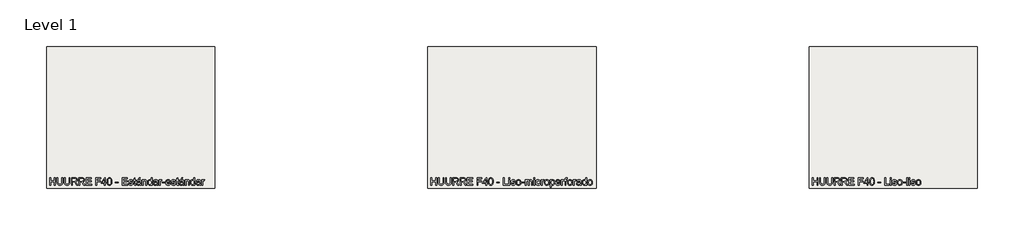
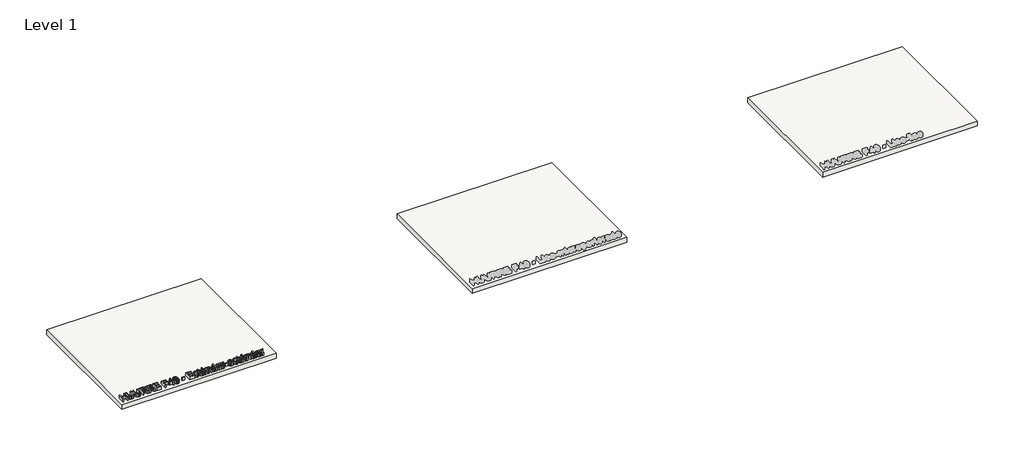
# One storey, part 1 of 2: 3 slabs, 1 proxy.
"""IFC4 building model written with IfcOpenShell, lengths in millimetres."""

from ifc_helpers import new_model, si_unit, frame, origin, origin_with_axes, place, context, project, spatial, polyline, outline, extrude, element, save

model = new_model("IFC4")

# Units and contexts
model_context = context("Model", 3, world=origin())
ifc_project = project(units=[si_unit("LENGTHUNIT", "METRE", prefix="MILLI")], contexts=[model_context])

# Site, building, storey
site = spatial("IfcSite", under=ifc_project)
building = spatial("IfcBuilding", under=site)
storey = spatial("IfcBuildingStorey", under=building, Name="Level 1", Elevation=0.0)

# Proxy
placement = place(None, origin())
element("IfcBuildingElementProxy", 1, Name="200mm Arial", ObjectType="200mm Arial", at=placement, inside=storey, context=model_context, shape_type="SweptSolid", body=[
    extrude(outline(polyline([(-8319.1902574, 798.4307978), (-8319.1902574, 999.3434181), (-8294.0761799, 999.3434181), (-8294.0761799, 917.7226661), (-8187.3413503, 917.7226661), (-8187.3413503, 999.3434181), (-8162.2272728, 999.3434181), (-8162.2272728, 798.4307978), (-8187.3413503, 798.4307978), (-8187.3413503, 892.6085886), (-8294.0761799, 892.6085886), (-8294.0761799, 798.4307978), (-8319.1902574, 798.4307978)])), origin_with_axes(), (0.0, 0.0, 1.0), 100.0),
    extrude(outline(polyline([(-7986.42873, 999.3434181), (-7961.3146525, 999.3434181), (-7961.3146525, 883.4360642), (-7963.0191724, 856.2925043), (-7968.1327321, 835.3906756), (-7977.6854013, 819.2651815), (-7992.7072494, 806.4506253), (-8013.2350647, 798.0813099), (-8039.3056355, 795.2915381), (-8064.8059891, 797.7195593), (-8085.192783, 805.0036228), (-8100.4721485, 816.8923426), (-8110.6502171, 833.1343327), (-8116.3707821, 854.9190782), (-8118.2776371, 883.4360642), (-8118.2776371, 999.3434181), (-8093.1635596, 999.3434181), (-8093.1635596, 884.318981), (-8091.9250235, 861.7494205), (-8088.2094154, 846.034728), (-8081.4771748, 835.1515523), (-8071.1887417, 827.0765425), (-8057.7733116, 822.0733474), (-8041.6600802, 820.4056157), (-8016.116807, 823.7042909), (-7999.1329216, 833.6003165), (-7989.6047779, 852.8773331), (-7986.42873, 884.318981), (-7986.42873, 999.3434181)])), origin_with_axes(), (0.0, 0.0, 1.0), 100.0),
    extrude(outline(polyline([(-7785.5161097, 999.3434181), (-7760.4020322, 999.3434181), (-7760.4020322, 883.4360642), (-7762.1065521, 856.2925043), (-7767.2201118, 835.3906756), (-7776.772781, 819.2651815), (-7791.7946291, 806.4506253), (-7812.3224444, 798.0813099), (-7838.3930152, 795.2915381), (-7863.8933688, 797.7195593), (-7884.2801627, 805.0036228), (-7899.5595282, 816.8923426), (-7909.7375968, 833.1343327), (-7915.4581618, 854.9190782), (-7917.3650168, 883.4360642), (-7917.3650168, 999.3434181), (-7892.2509393, 999.3434181), (-7892.2509393, 884.318981), (-7891.0124032, 861.7494205), (-7887.2967951, 846.034728), (-7880.5645545, 835.1515523), (-7870.2761214, 827.0765425), (-7856.8606913, 822.0733474), (-7840.7474599, 820.4056157), (-7815.2041867, 823.7042909), (-7798.2203013, 833.6003165), (-7788.6921576, 852.8773331), (-7785.5161097, 884.318981), (-7785.5161097, 999.3434181)])), origin_with_axes(), (0.0, 0.0, 1.0), 100.0),
    extrude(outline(polyline([(-7716.4523965, 798.4307978), (-7716.4523965, 999.3434181), (-7629.8775003, 999.3434181), (-7606.6089641, 997.9883861), (-7589.680261, 993.92329), (-7577.3071632, 986.4184973), (-7567.7054431, 974.7443754), (-7561.5434197, 960.2682189), (-7559.4894119, 944.3573226), (-7562.8923203, 924.5652712), (-7573.1010457, 908.1577342), (-7590.4221563, 896.127993), (-7615.1622205, 889.4693289), (-7600.8883991, 878.7271746), (-7580.532262, 852.8773331), (-7547.030475, 798.4307978), (-7576.2157799, 798.4307978), (-7602.3599271, 840.0750397), (-7621.2445361, 867.6416638), (-7634.5128134, 880.6646865), (-7646.4567156, 885.4471524), (-7661.0248426, 886.3300692), (-7691.338319, 886.3300692), (-7691.338319, 798.4307978), (-7716.4523965, 798.4307978)]), holes=[polyline([(-7691.338319, 911.4441467), (-7635.1259501, 911.4441467), (-7606.4556799, 915.0003393), (-7597.0256381, 919.6233898), (-7590.1707703, 926.3801557), (-7584.6034894, 943.4253548), (-7587.2583712, 955.6758253), (-7595.2230164, 965.5473255), (-7608.9266207, 972.0588368), (-7628.7983798, 974.2293406), (-7691.338319, 974.2293406), (-7691.338319, 911.4441467)])]), origin_with_axes(), (0.0, 0.0, 1.0), 100.0),
    extrude(outline(polyline([(-7515.5397762, 798.4307978), (-7515.5397762, 999.3434181), (-7428.96488, 999.3434181), (-7405.6963438, 997.9883861), (-7388.7676407, 993.92329), (-7376.3945429, 986.4184973), (-7366.7928228, 974.7443754), (-7360.6307994, 960.2682189), (-7358.5767916, 944.3573226), (-7361.9797, 924.5652712), (-7372.1884254, 908.1577342), (-7389.509536, 896.127993), (-7414.2496002, 889.4693289), (-7399.9757788, 878.7271746), (-7379.6196417, 852.8773331), (-7346.1178547, 798.4307978), (-7375.3031596, 798.4307978), (-7401.4473068, 840.0750397), (-7420.3319158, 867.6416638), (-7433.6001931, 880.6646865), (-7445.5440953, 885.4471524), (-7460.1122223, 886.3300692), (-7490.4256987, 886.3300692), (-7490.4256987, 798.4307978), (-7515.5397762, 798.4307978)]), holes=[polyline([(-7490.4256987, 911.4441467), (-7434.2133298, 911.4441467), (-7405.5430596, 915.0003393), (-7396.1130178, 919.6233898), (-7389.25815, 926.3801557), (-7383.6908691, 943.4253548), (-7386.3457509, 955.6758253), (-7394.3103961, 965.5473255), (-7408.0140004, 972.0588368), (-7427.8857595, 974.2293406), (-7490.4256987, 974.2293406), (-7490.4256987, 911.4441467)])]), origin_with_axes(), (0.0, 0.0, 1.0), 100.0),
    extrude(outline(polyline([(-7314.6271559, 798.4307978), (-7314.6271559, 999.3434181), (-7170.2212101, 999.3434181), (-7170.2212101, 974.2293406), (-7289.5130784, 974.2293406), (-7289.5130784, 914.5834064), (-7176.4997294, 914.5834064), (-7176.4997294, 889.4693289), (-7289.5130784, 889.4693289), (-7289.5130784, 823.5448753), (-7167.0819504, 823.5448753), (-7167.0819504, 798.4307978), (-7314.6271559, 798.4307978)])), origin_with_axes(), (0.0, 0.0, 1.0), 100.0),
    extrude(outline(polyline([(-7050.9293418, 798.4307978), (-7050.9293418, 999.3434181), (-6915.941175, 999.3434181), (-6915.941175, 974.2293406), (-7025.8152642, 974.2293406), (-7025.8152642, 914.5834064), (-6931.6374735, 914.5834064), (-6931.6374735, 889.4693289), (-7025.8152642, 889.4693289), (-7025.8152642, 798.4307978), (-7050.9293418, 798.4307978)])), origin_with_axes(), (0.0, 0.0, 1.0), 100.0),
    extrude(outline(polyline([(-6809.2063455, 798.4307978), (-6809.2063455, 845.5196932), (-6900.2448765, 845.5196932), (-6900.2448765, 870.6337707), (-6802.9278261, 996.2041584), (-6784.0922679, 996.2041584), (-6784.0922679, 870.6337707), (-6758.9781904, 870.6337707), (-6758.9781904, 845.5196932), (-6784.0922679, 845.5196932), (-6784.0922679, 798.4307978), (-6809.2063455, 798.4307978)]), holes=[polyline([(-6809.2063455, 870.6337707), (-6809.2063455, 948.2323462), (-6869.3427889, 870.6337707), (-6809.2063455, 870.6337707)])]), origin_with_axes(), (0.0, 0.0, 1.0), 100.0),
    extrude(outline(polyline([(-6737.0033725, 897.2684272), (-6735.1578312, 929.4274449), (-6729.6212072, 955.0749514), (-6720.4486828, 974.6033539), (-6707.6954403, 988.4050601), (-6691.2695092, 996.6088286), (-6671.078919, 999.3434181), (-6655.6033497, 997.7247373), (-6641.7464613, 992.868695), (-6630.1581784, 984.9653635), (-6621.4884261, 974.2048151), (-6609.7162022, 944.4799499), (-6605.1544655, 897.2684272), (-6606.9816127, 865.2933504), (-6612.4630544, 839.7071577), (-6621.5803966, 820.160361), (-6634.315245, 806.3034725), (-6650.7779642, 798.0445217), (-6671.078919, 795.2915381), (-6697.1740152, 800.0740041), (-6716.990592, 814.4214019), (-6725.7461835, 829.5505489), (-6732.0001774, 848.4014355), (-6737.0033725, 897.2684272)]), holes=[polyline([(-6711.889295, 897.3174781), (-6708.946239, 857.8130832), (-6700.1170712, 834.9492172), (-6686.9714212, 824.041516), (-6671.078919, 820.4056157), (-6655.1864168, 824.0537788), (-6642.0407669, 834.9982681), (-6633.211599, 857.8743969), (-6630.268543, 897.3174781), (-6633.1134971, 935.9328249), (-6641.6483594, 958.9745005), (-6654.7694839, 970.4156306), (-6671.3732246, 974.2293406), (-6687.0940485, 970.8693517), (-6699.7246637, 960.789385), (-6708.8481372, 936.3129696), (-6711.889295, 897.3174781)])]), origin_with_axes(), (0.0, 0.0, 1.0), 100.0),
    extrude(outline(polyline([(-6510.9766747, 858.076732), (-6510.9766747, 883.1908095), (-6432.4951824, 883.1908095), (-6432.4951824, 858.076732), (-6510.9766747, 858.076732)])), origin_with_axes(), (0.0, 0.0, 1.0), 100.0),
    extrude(outline(polyline([(-6322.6210932, 798.4307978), (-6322.6210932, 999.3434181), (-6178.2151473, 999.3434181), (-6178.2151473, 974.2293406), (-6297.5070156, 974.2293406), (-6297.5070156, 914.5834064), (-6184.4936667, 914.5834064), (-6184.4936667, 889.4693289), (-6297.5070156, 889.4693289), (-6297.5070156, 823.5448753), (-6175.0758876, 823.5448753), (-6175.0758876, 798.4307978), (-6322.6210932, 798.4307978)])), origin_with_axes(), (0.0, 0.0, 1.0), 100.0),
    extrude(outline(polyline([(-6149.9618101, 842.3804335), (-6124.8477326, 845.5196932), (-6120.8868698, 834.7775389), (-6113.2226615, 826.8803388), (-6101.8060569, 822.0242964), (-6086.5880051, 820.4056157), (-6071.5538942, 821.8894064), (-6060.9834182, 826.3407785), (-6054.7294243, 832.7909762), (-6052.6447596, 840.2712434), (-6054.741687, 846.6723901), (-6061.0324691, 851.5529579), (-6086.8823107, 858.7143941), (-6124.7005798, 871.0016527), (-6134.271643, 877.1759389), (-6141.2062186, 885.3490505), (-6146.8225504, 905.6070857), (-6142.3098646, 924.3200166), (-6129.9980805, 938.6183634), (-6114.0320019, 946.0495797), (-6092.4250661, 949.115263), (-6061.866335, 944.1856443), (-6050.4374677, 938.3853715), (-6042.4421656, 930.8437906), (-6033.8092015, 908.304887), (-6058.923279, 905.1656273), (-6062.0931956, 913.0689589), (-6068.3655836, 919.0225158), (-6090.4630288, 924.0011855), (-6104.884003, 922.8117004), (-6114.4979858, 919.243245), (-6119.9058511, 914.0928971), (-6121.7084729, 908.1577342), (-6118.716366, 900.8491453), (-6109.3476378, 895.3063899), (-6087.7161765, 889.9598382), (-6050.8544006, 878.1385634), (-6033.7356251, 864.7476588), (-6029.0819179, 854.9006841), (-6027.5306821, 842.9199938), (-6029.351698, 830.5346333), (-6034.8147456, 818.8850367), (-6043.7113585, 808.8847778), (-6055.8330703, 801.4474302), (-6070.4747737, 796.8305111), (-6086.9313616, 795.2915381), (-6112.2539056, 798.2591195), (-6130.7338445, 807.1618638), (-6143.0701541, 821.9016691), (-6149.9618101, 842.3804335)])), origin_with_axes(), (0.0, 0.0, 1.0), 100.0),
    extrude(outline(polyline([(-5945.9099301, 819.3755461), (-5942.7706704, 797.6950338), (-5961.5571776, 795.2915381), (-5982.6000278, 799.4608674), (-5993.0969274, 810.3992254), (-5996.1380852, 838.8978173), (-5996.1380852, 920.8619258), (-6014.9736433, 920.8619258), (-6014.9736433, 945.9760033), (-5996.1380852, 945.9760033), (-5996.1380852, 981.8322351), (-5971.0240077, 996.5965659), (-5971.0240077, 945.9760033), (-5945.9099301, 945.9760033), (-5945.9099301, 920.8619258), (-5971.0240077, 920.8619258), (-5971.0240077, 839.6335813), (-5969.6996325, 826.684135), (-5965.4076759, 822.0978728), (-5956.8482881, 820.4056157), (-5945.9099301, 819.3755461)])), origin_with_axes(), (0.0, 0.0, 1.0), 100.0),
    extrude(outline(polyline([(-5876.8462169, 961.6723018), (-5858.0106587, 999.3434181), (-5826.6180618, 999.3434181), (-5858.0106587, 961.6723018), (-5876.8462169, 961.6723018)])), origin_with_axes(), (0.0, 0.0, 1.0), 100.0),
    extrude(outline(polyline([(-5826.6180618, 817.266356), (-5850.9718499, 800.2456823), (-5877.8762865, 795.2915381), (-5898.8639543, 798.2713823), (-5914.3456549, 807.2109148), (-5923.8921927, 820.7857604), (-5927.074372, 837.671544), (-5922.2673806, 857.5371717), (-5909.6367654, 871.9581459), (-5892.052006, 880.1987026), (-5870.3224428, 883.9756244), (-5826.7652146, 892.6085886), (-5826.6180618, 898.2003949), (-5828.3471072, 909.408533), (-5833.5342433, 916.7416475), (-5845.1347889, 922.186301), (-5861.2970712, 924.0011855), (-5876.2576057, 922.7933063), (-5886.7054544, 919.1696686), (-5893.8301023, 912.4680849), (-5898.8210347, 902.0263677), (-5923.9351123, 905.1656273), (-5913.0703307, 929.6910937), (-5903.8119671, 937.9439131), (-5891.1936147, 944.063017), (-5858.0597097, 949.115263), (-5827.6236059, 944.6516282), (-5810.431254, 933.44349), (-5802.7302576, 916.3982909), (-5801.5039843, 894.4234731), (-5801.5039843, 863.178029), (-5800.22866, 819.5472243), (-5795.2254649, 798.4307978), (-5820.3395424, 798.4307978), (-5826.6180618, 817.266356)]), holes=[polyline([(-5826.6180618, 867.494511), (-5867.1341322, 859.7935146), (-5888.7410681, 855.7222872), (-5898.5267291, 849.1004113), (-5901.9602944, 839.4373775), (-5900.0902276, 831.969373), (-5894.4800272, 825.8502692), (-5885.2523205, 821.766779), (-5872.5297348, 820.4056157), (-5859.0407283, 821.9078005), (-5847.1213517, 826.4143549), (-5830.7383402, 840.9579565), (-5826.7652146, 860.3821258), (-5826.6180618, 867.494511)])]), origin_with_axes(), (0.0, 0.0, 1.0), 100.0),
    extrude(outline(polyline([(-5766.9721277, 798.4307978), (-5766.9721277, 945.9760033), (-5741.8580501, 945.9760033), (-5741.8580501, 925.3746116), (-5733.1331155, 935.7611466), (-5722.65461, 943.1801002), (-5710.4225336, 947.6314723), (-5696.4368865, 949.115263), (-5672.7207605, 944.3327971), (-5656.5339527, 931.7757583), (-5649.0046345, 913.3080822), (-5647.6802594, 889.0278705), (-5647.6802594, 798.4307978), (-5672.7943369, 798.4307978), (-5672.7943369, 885.6433561), (-5675.6883419, 907.8634286), (-5685.9154614, 919.611127), (-5703.1568642, 924.0011855), (-5717.8660127, 921.5363761), (-5730.4046573, 914.141948), (-5738.9947019, 899.8558639), (-5741.8580501, 876.7160864), (-5741.8580501, 798.4307978), (-5766.9721277, 798.4307978)])), origin_with_axes(), (0.0, 0.0, 1.0), 100.0),
    extrude(outline(polyline([(-5522.1098717, 798.4307978), (-5522.1098717, 822.1223983), (-5529.6238614, 810.383897), (-5538.7258751, 801.9992532), (-5549.4159128, 796.9684669), (-5561.6939744, 795.2915381), (-5577.9298331, 797.7195593), (-5592.7922657, 805.0036228), (-5605.3738299, 816.6348252), (-5614.7670835, 832.1042631), (-5620.6164072, 850.7865371), (-5622.5661818, 872.0562478), (-5620.7696914, 893.0623097), (-5615.3802202, 912.0327579), (-5606.4038995, 927.8884719), (-5593.8468607, 939.5503312), (-5578.6594657, 946.7240301), (-5561.7920762, 949.115263), (-5549.5048176, 947.4046118), (-5538.640036, 942.2726579), (-5522.1098717, 924.4916948), (-5522.1098717, 999.3434181), (-5496.9957941, 999.3434181), (-5496.9957941, 798.4307978), (-5522.1098717, 798.4307978)]), holes=[polyline([(-5597.4521043, 872.1543496), (-5594.6194129, 849.4376364), (-5586.1213388, 833.2814855), (-5573.7727665, 823.6245831), (-5559.3885805, 820.4056157), (-5545.0105259, 823.4774303), (-5532.9746533, 832.6928743), (-5524.8260671, 848.2236259), (-5522.1098717, 870.2413633), (-5524.875118, 894.3131085), (-5533.170857, 911.0026883), (-5545.5132979, 920.7515612), (-5560.4186501, 924.0011855), (-5574.9499889, 920.8803199), (-5586.8571028, 911.5177231), (-5594.8033539, 895.4351486), (-5597.4521043, 872.1543496)])]), origin_with_axes(), (0.0, 0.0, 1.0), 100.0),
    extrude(outline(polyline([(-5365.1468871, 817.266356), (-5389.5006751, 800.2456823), (-5416.4051117, 795.2915381), (-5437.3927795, 798.2713823), (-5452.8744802, 807.2109148), (-5462.421018, 820.7857604), (-5465.6031972, 837.671544), (-5460.7962058, 857.5371717), (-5448.1655906, 871.9581459), (-5430.5808313, 880.1987026), (-5408.8512681, 883.9756244), (-5365.2940399, 892.6085886), (-5365.1468871, 898.2003949), (-5366.8759324, 909.408533), (-5372.0630686, 916.7416475), (-5383.6636142, 922.186301), (-5399.8258965, 924.0011855), (-5414.7864309, 922.7933063), (-5425.2342796, 919.1696686), (-5432.3589276, 912.4680849), (-5437.34986, 902.0263677), (-5462.4639375, 905.1656273), (-5451.5991559, 929.6910937), (-5442.3407924, 937.9439131), (-5429.7224399, 944.063017), (-5396.5885349, 949.115263), (-5366.1524312, 944.6516282), (-5348.9600793, 933.44349), (-5341.2590828, 916.3982909), (-5340.0328095, 894.4234731), (-5340.0328095, 863.178029), (-5338.7574853, 819.5472243), (-5333.7542901, 798.4307978), (-5358.8683677, 798.4307978), (-5365.1468871, 817.266356)]), holes=[polyline([(-5365.1468871, 867.494511), (-5405.6629575, 859.7935146), (-5427.2698933, 855.7222872), (-5437.0555544, 849.1004113), (-5440.4891197, 839.4373775), (-5438.6190529, 831.969373), (-5433.0088524, 825.8502692), (-5423.7811457, 821.766779), (-5411.0585601, 820.4056157), (-5397.5695536, 821.9078005), (-5385.6501769, 826.4143549), (-5369.2671654, 840.9579565), (-5365.2940399, 860.3821258), (-5365.1468871, 867.494511)])]), origin_with_axes(), (0.0, 0.0, 1.0), 100.0),
    extrude(outline(polyline([(-5305.5009529, 798.4307978), (-5305.5009529, 945.9760033), (-5283.5261351, 945.9760033), (-5283.5261351, 924.1483383), (-5267.9279385, 944.2592207), (-5252.23164, 949.115263), (-5239.7236522, 947.1777512), (-5227.0194606, 941.3652157), (-5235.4071701, 918.8508376), (-5253.0655059, 924.0011855), (-5267.2657509, 919.0470413), (-5276.315648, 905.3127801), (-5280.3868754, 875.9803224), (-5280.3868754, 798.4307978), (-5305.5009529, 798.4307978)])), origin_with_axes(), (0.0, 0.0, 1.0), 100.0),
    extrude(outline(polyline([(-5223.8802009, 858.076732), (-5223.8802009, 883.1908095), (-5145.3987086, 883.1908095), (-5145.3987086, 858.076732), (-5223.8802009, 858.076732)])), origin_with_axes(), (0.0, 0.0, 1.0), 100.0),
    extrude(outline(polyline([(-5013.8441071, 842.3804335), (-4989.2205389, 839.2411738), (-4998.0926264, 820.6876585), (-5012.2499518, 806.8185073), (-5031.3736842, 798.1732804), (-5055.1449925, 795.2915381), (-5084.6123403, 800.2640764), (-5107.2861339, 815.1816913), (-5121.7438963, 839.0756269), (-5126.5631505, 870.9771273), (-5121.6948454, 903.9516168), (-5107.0899302, 928.6119732), (-5084.7227049, 943.9894406), (-5056.5674695, 949.115263), (-5029.2890196, 944.0017033), (-5007.4920114, 928.6610241), (-4993.1997958, 904.0497186), (-4988.435724, 871.1242801), (-4988.5828768, 864.3552513), (-5101.4490729, 864.3552513), (-5097.101934, 845.5564814), (-5087.0035732, 831.7363811), (-5072.4293149, 823.238307), (-5054.6544831, 820.4056157), (-5030.0309149, 825.6540655), (-5020.882916, 832.4598824), (-5013.8441071, 842.3804335)]), holes=[polyline([(-5101.4490729, 889.4693289), (-5013.5498015, 889.4693289), (-5016.9465786, 902.7376062), (-5023.6052427, 912.2289617), (-5038.2469461, 921.0581295), (-5056.6655714, 924.0011855), (-5073.5942745, 921.6528721), (-5087.5921844, 914.6079319), (-5097.3226632, 903.6266543), (-5101.4490729, 889.4693289)])]), origin_with_axes(), (0.0, 0.0, 1.0), 100.0),
    extrude(outline(polyline([(-4972.7394255, 842.3804335), (-4947.625348, 845.5196932), (-4943.6644852, 834.7775389), (-4936.000277, 826.8803388), (-4924.5836724, 822.0242964), (-4909.3656205, 820.4056157), (-4894.3315096, 821.8894064), (-4883.7610336, 826.3407785), (-4877.5070397, 832.7909762), (-4875.4223751, 840.2712434), (-4877.5193025, 846.6723901), (-4883.8100846, 851.5529579), (-4909.6599261, 858.7143941), (-4947.4781952, 871.0016527), (-4957.0492584, 877.1759389), (-4963.9838341, 885.3490505), (-4969.6001658, 905.6070857), (-4965.08748, 924.3200166), (-4952.7756959, 938.6183634), (-4936.8096173, 946.0495797), (-4915.2026815, 949.115263), (-4884.6439504, 944.1856443), (-4873.2150831, 938.3853715), (-4865.2197811, 930.8437906), (-4856.5868169, 908.304887), (-4881.7008945, 905.1656273), (-4884.870811, 913.0689589), (-4891.143199, 919.0225158), (-4913.2406442, 924.0011855), (-4927.6616184, 922.8117004), (-4937.2756012, 919.243245), (-4942.6834665, 914.0928971), (-4944.4860883, 908.1577342), (-4941.4939814, 900.8491453), (-4932.1252533, 895.3063899), (-4910.493792, 889.9598382), (-4873.632016, 878.1385634), (-4856.5132405, 864.7476588), (-4851.8595333, 854.9006841), (-4850.3082975, 842.9199938), (-4852.1293134, 830.5346333), (-4857.592361, 818.8850367), (-4866.488974, 808.8847778), (-4878.6106857, 801.4474302), (-4893.2523891, 796.8305111), (-4909.708977, 795.2915381), (-4935.031521, 798.2591195), (-4953.5114599, 807.1618638), (-4965.8477695, 821.9016691), (-4972.7394255, 842.3804335)])), origin_with_axes(), (0.0, 0.0, 1.0), 100.0),
    extrude(outline(polyline([(-4768.6875455, 819.3755461), (-4765.5482859, 797.6950338), (-4784.3347931, 795.2915381), (-4805.3776432, 799.4608674), (-4815.8745428, 810.3992254), (-4818.9157006, 838.8978173), (-4818.9157006, 920.8619258), (-4837.7512588, 920.8619258), (-4837.7512588, 945.9760033), (-4818.9157006, 945.9760033), (-4818.9157006, 981.8322351), (-4793.8016231, 996.5965659), (-4793.8016231, 945.9760033), (-4768.6875455, 945.9760033), (-4768.6875455, 920.8619258), (-4793.8016231, 920.8619258), (-4793.8016231, 839.6335813), (-4792.4772479, 826.684135), (-4788.1852913, 822.0978728), (-4779.6259035, 820.4056157), (-4768.6875455, 819.3755461)])), origin_with_axes(), (0.0, 0.0, 1.0), 100.0),
    extrude(outline(polyline([(-4699.6238323, 961.6723018), (-4680.7882742, 999.3434181), (-4649.3956772, 999.3434181), (-4680.7882742, 961.6723018), (-4699.6238323, 961.6723018)])), origin_with_axes(), (0.0, 0.0, 1.0), 100.0),
    extrude(outline(polyline([(-4649.3956772, 817.266356), (-4673.7494653, 800.2456823), (-4700.6539019, 795.2915381), (-4721.6415697, 798.2713823), (-4737.1232704, 807.2109148), (-4746.6698081, 820.7857604), (-4749.8519874, 837.671544), (-4745.044996, 857.5371717), (-4732.4143808, 871.9581459), (-4714.8296215, 880.1987026), (-4693.1000583, 883.9756244), (-4649.54283, 892.6085886), (-4649.3956772, 898.2003949), (-4651.1247226, 909.408533), (-4656.3118588, 916.7416475), (-4667.9124043, 922.186301), (-4684.0746867, 924.0011855), (-4699.0352211, 922.7933063), (-4709.4830698, 919.1696686), (-4716.6077178, 912.4680849), (-4721.5986502, 902.0263677), (-4746.7127277, 905.1656273), (-4735.8479461, 929.6910937), (-4726.5895826, 937.9439131), (-4713.9712301, 944.063017), (-4680.8373251, 949.115263), (-4650.4012214, 944.6516282), (-4633.2088695, 933.44349), (-4625.507873, 916.3982909), (-4624.2815997, 894.4234731), (-4624.2815997, 863.178029), (-4623.0062755, 819.5472243), (-4618.0030803, 798.4307978), (-4643.1171579, 798.4307978), (-4649.3956772, 817.266356)]), holes=[polyline([(-4649.3956772, 867.494511), (-4689.9117476, 859.7935146), (-4711.5186835, 855.7222872), (-4721.3043446, 849.1004113), (-4724.7379099, 839.4373775), (-4722.867843, 831.969373), (-4717.2576426, 825.8502692), (-4708.0299359, 821.766779), (-4695.3073502, 820.4056157), (-4681.8183438, 821.9078005), (-4669.8989671, 826.4143549), (-4653.5159556, 840.9579565), (-4649.54283, 860.3821258), (-4649.3956772, 867.494511)])]), origin_with_axes(), (0.0, 0.0, 1.0), 100.0),
    extrude(outline(polyline([(-4589.7497431, 798.4307978), (-4589.7497431, 945.9760033), (-4564.6356656, 945.9760033), (-4564.6356656, 925.3746116), (-4555.9107309, 935.7611466), (-4545.4322254, 943.1801002), (-4533.2001491, 947.6314723), (-4519.2145019, 949.115263), (-4495.4983759, 944.3327971), (-4479.3115681, 931.7757583), (-4471.78225, 913.3080822), (-4470.4578748, 889.0278705), (-4470.4578748, 798.4307978), (-4495.5719523, 798.4307978), (-4495.5719523, 885.6433561), (-4498.4659574, 907.8634286), (-4508.6930768, 919.611127), (-4525.9344797, 924.0011855), (-4540.6436281, 921.5363761), (-4553.1822728, 914.141948), (-4561.7723174, 899.8558639), (-4564.6356656, 876.7160864), (-4564.6356656, 798.4307978), (-4589.7497431, 798.4307978)])), origin_with_axes(), (0.0, 0.0, 1.0), 100.0),
    extrude(outline(polyline([(-4344.8874871, 798.4307978), (-4344.8874871, 822.1223983), (-4352.4014769, 810.383897), (-4361.5034906, 801.9992532), (-4372.1935282, 796.9684669), (-4384.4715898, 795.2915381), (-4400.7074485, 797.7195593), (-4415.5698811, 805.0036228), (-4428.1514453, 816.6348252), (-4437.544699, 832.1042631), (-4443.3940227, 850.7865371), (-4445.3437973, 872.0562478), (-4443.5473068, 893.0623097), (-4438.1578356, 912.0327579), (-4429.1815149, 927.8884719), (-4416.6244762, 939.5503312), (-4401.4370811, 946.7240301), (-4384.5696917, 949.115263), (-4372.282433, 947.4046118), (-4361.4176514, 942.2726579), (-4344.8874871, 924.4916948), (-4344.8874871, 999.3434181), (-4319.7734096, 999.3434181), (-4319.7734096, 798.4307978), (-4344.8874871, 798.4307978)]), holes=[polyline([(-4420.2297197, 872.1543496), (-4417.3970284, 849.4376364), (-4408.8989543, 833.2814855), (-4396.550382, 823.6245831), (-4382.1661959, 820.4056157), (-4367.7881413, 823.4774303), (-4355.7522687, 832.6928743), (-4347.6036825, 848.2236259), (-4344.8874871, 870.2413633), (-4347.6527334, 894.3131085), (-4355.9484724, 911.0026883), (-4368.2909134, 920.7515612), (-4383.1962655, 924.0011855), (-4397.7276043, 920.8803199), (-4409.6347183, 911.5177231), (-4417.5809694, 895.4351486), (-4420.2297197, 872.1543496)])]), origin_with_axes(), (0.0, 0.0, 1.0), 100.0),
    extrude(outline(polyline([(-4187.9245025, 817.266356), (-4212.2782906, 800.2456823), (-4239.1827272, 795.2915381), (-4260.170395, 798.2713823), (-4275.6520956, 807.2109148), (-4285.1986334, 820.7857604), (-4288.3808126, 837.671544), (-4283.5738212, 857.5371717), (-4270.9432061, 871.9581459), (-4253.3584467, 880.1987026), (-4231.6288835, 883.9756244), (-4188.0716553, 892.6085886), (-4187.9245025, 898.2003949), (-4189.6535479, 909.408533), (-4194.840684, 916.7416475), (-4206.4412296, 922.186301), (-4222.6035119, 924.0011855), (-4237.5640464, 922.7933063), (-4248.011895, 919.1696686), (-4255.136543, 912.4680849), (-4260.1274754, 902.0263677), (-4285.241553, 905.1656273), (-4274.3767714, 929.6910937), (-4265.1184078, 937.9439131), (-4252.5000554, 944.063017), (-4219.3661504, 949.115263), (-4188.9300466, 944.6516282), (-4171.7376947, 933.44349), (-4164.0366983, 916.3982909), (-4162.810425, 894.4234731), (-4162.810425, 863.178029), (-4161.5351007, 819.5472243), (-4156.5319056, 798.4307978), (-4181.6459831, 798.4307978), (-4187.9245025, 817.266356)]), holes=[polyline([(-4187.9245025, 867.494511), (-4228.4405729, 859.7935146), (-4250.0475087, 855.7222872), (-4259.8331698, 849.1004113), (-4263.2667351, 839.4373775), (-4261.3966683, 831.969373), (-4255.7864679, 825.8502692), (-4246.5587612, 821.766779), (-4233.8361755, 820.4056157), (-4220.347169, 821.9078005), (-4208.4277924, 826.4143549), (-4192.0447808, 840.9579565), (-4188.0716553, 860.3821258), (-4187.9245025, 867.494511)])]), origin_with_axes(), (0.0, 0.0, 1.0), 100.0),
    extrude(outline(polyline([(-4128.2785683, 798.4307978), (-4128.2785683, 945.9760033), (-4106.3037505, 945.9760033), (-4106.3037505, 924.1483383), (-4090.7055539, 944.2592207), (-4075.0092554, 949.115263), (-4062.5012676, 947.1777512), (-4049.797076, 941.3652157), (-4058.1847855, 918.8508376), (-4075.8431213, 924.0011855), (-4090.0433663, 919.0470413), (-4099.0932634, 905.3127801), (-4103.1644908, 875.9803224), (-4103.1644908, 798.4307978), (-4128.2785683, 798.4307978)])), origin_with_axes(), (0.0, 0.0, 1.0), 100.0),
])

# Slabs
element("IfcSlab", 2, ObjectType="Generic Floor - 150mm", at=placement, inside=storey, context=model_context, shape_type="SweptSolid", body=[
    extrude(outline(polyline([(-3769.8209671, 4615.2076786), (-3769.8209671, 715.2076786), (-8405.090184, 715.2076786), (-8405.090184, 4615.2076786), (-3769.8209671, 4615.2076786)])), frame((0.0, 0.0, -150.0), z_axis=(0.0, 0.0, 1.0), x_axis=(1.0, 0.0, 0.0)), (0.0, 0.0, 1.0), 150.0),
])
element("IfcSlab", 3, ObjectType="Generic Floor - 150mm", at=placement, inside=storey, context=model_context, shape_type="SweptSolid", body=[
    extrude(outline(polyline([(17230.1790329, 4615.2076786), (17230.1790329, 715.2076786), (12594.909816, 715.2076786), (12594.909816, 4615.2076786), (17230.1790329, 4615.2076786)])), frame((0.0, 0.0, -150.0), z_axis=(0.0, 0.0, 1.0), x_axis=(1.0, 0.0, 0.0)), (0.0, 0.0, 1.0), 150.0),
])
element("IfcSlab", 4, ObjectType="Generic Floor - 150mm", at=placement, inside=storey, context=model_context, shape_type="SweptSolid", body=[
    extrude(outline(polyline([(6730.1790329, 4615.2076786), (6730.1790329, 715.2076786), (2094.909816, 715.2076786), (2094.909816, 4615.2076786), (6730.1790329, 4615.2076786)])), frame((0.0, 0.0, -150.0), z_axis=(0.0, 0.0, 1.0), x_axis=(1.0, 0.0, 0.0)), (0.0, 0.0, 1.0), 150.0),
])

save(model, "model.ifc")
